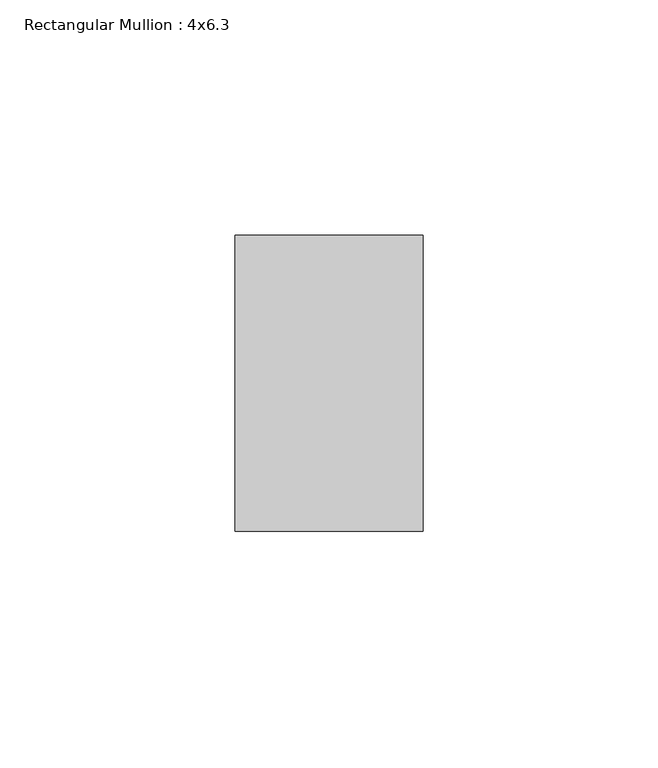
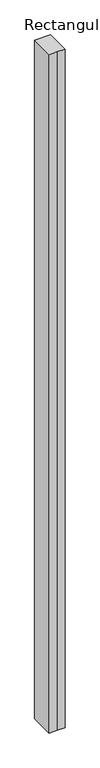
"""IFC4 building model written with IfcOpenShell, lengths in millimetres: member geometry, Rectangular Mullion : 4x6.3."""

from ifc_helpers import new_model, si_unit, frame, origin, place, context, project, spatial, polyline, outline, extrude, source, transform, mapped, element, save


def rectangular_mullion_4x6_3_0862c4c0(model_context):
    return source(origin(), model_context, "Body", "SweptSolid", [
        extrude(outline(polyline([(-20.0, 20.0), (-20.0, 83.0), (20.0, 83.0), (20.0, 20.0), (0.0, 20.0), (-20.0, 20.0)])), frame((0.0, 0.0, -1799.2221566), z_axis=(0.0, 0.0, 1.0), x_axis=(1.0, 0.0, 0.0)), (0.0, 0.0, 1.0), 1799.2221566),
    ])


if __name__ == "__main__":
    model = new_model("IFC4")
    model_context = context("Model", 3, world=origin())
    ifc_project = project(units=[si_unit("LENGTHUNIT", "METRE", prefix="MILLI")], contexts=[model_context])
    site = spatial("IfcSite", under=ifc_project)
    building = spatial("IfcBuilding", under=site)
    placement = place(None, origin())
    rectangular_mullion_4x6_3_shape = rectangular_mullion_4x6_3_0862c4c0(model_context)
    element("IfcMember", 1, ObjectType="Rectangular Mullion : 4x6.3", at=placement, inside=building, context=model_context, shape_type="MappedRepresentation", body=[
        mapped(rectangular_mullion_4x6_3_shape, transform((0.0, 0.0, 0.0), x_axis=(1.0, 0.0, 0.0), y_axis=(0.0, 1.0, 0.0), z_axis=(0.0, 0.0, 1.0))),
    ])
    save(model, "model.ifc")
